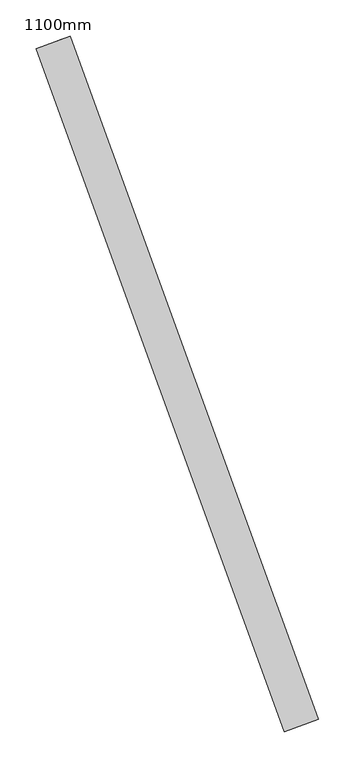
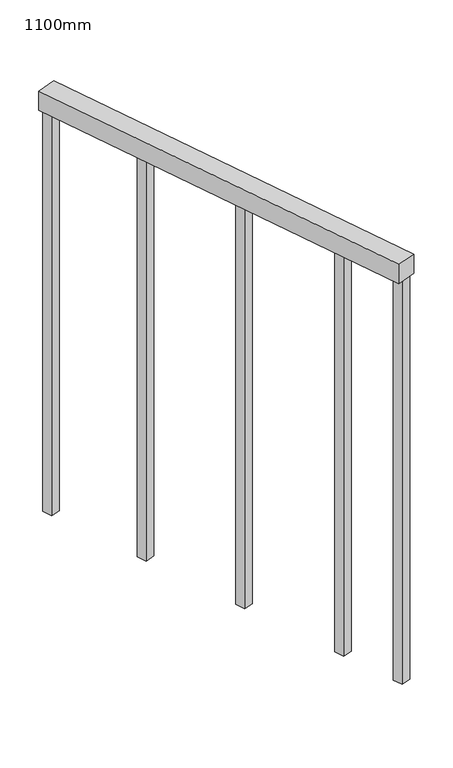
"""IFC4 building model written with IfcOpenShell, lengths in millimetres: railing geometry, 1100mm."""

import ifcopenshell
import ifcopenshell.guid

model = None  # the IFC model being written
_history = None  # IfcOwnerHistory: only IFC2X3 demands one
_inside = {}  # id of a spatial element -> (the spatial element, [elements in it])
_under = {}  # id of a project, library or spatial element -> (it, [spatial elements below it])
_declared = {}  # id of a project -> (the project, [libraries it declares])
_typed = {}  # id of a type object -> (the type object, [elements of that type])
_made_of = {}  # id of a material, layer set ... -> (it, [elements and type objects made of it])


def new_model(schema):
    """Start an empty IFC model of exactly this schema.

    Asked for "IFC4X3", IfcOpenShell would pick the latest addendum, in which some entities
    have other attributes; the version numbers below select the first issue.
    IFC2X3 requires an IfcOwnerHistory on every rooted entity: one is made here for all.
    """
    global model, _history
    if schema == "IFC4X3":
        model = ifcopenshell.file(schema_version=(4, 3, 0, 0))
    else:
        model = ifcopenshell.file(schema=schema)
    _inside.clear()
    _under.clear()
    _declared.clear()
    _typed.clear()
    _made_of.clear()
    _history = None
    if model.schema == "IFC2X3":
        org = make("IfcOrganization", Name="unknown")
        user = make(
            "IfcPersonAndOrganization",
            ThePerson=make("IfcPerson", FamilyName="unknown"),
            TheOrganization=org,
        )
        app = make(
            "IfcApplication",
            ApplicationDeveloper=org,
            Version="unknown",
            ApplicationFullName="unknown",
            ApplicationIdentifier="unknown",
        )
        _history = make(
            "IfcOwnerHistory",
            OwningUser=user,
            OwningApplication=app,
            ChangeAction="ADDED",
            CreationDate=0,
        )
    return model


def make(cls, **values):
    """One entity of the class cls with the attributes given. An attribute that is None is left unset."""
    return model.create_entity(
        cls, **{name: value for name, value in values.items() if value is not None}
    )


def rooted(cls, **values):
    """An entity with a GlobalId (a new one), such as an element, a storey or a relation."""
    return make(cls, GlobalId=ifcopenshell.guid.new(), OwnerHistory=_history, **values)


def si_unit(unit_type, name, prefix=None):
    """IfcSIUnit, for example si_unit("LENGTHUNIT", "METRE", prefix="MILLI")."""
    return make("IfcSIUnit", UnitType=unit_type, Prefix=prefix, Name=name)


def assignment(units):
    """IfcUnitAssignment: the units of a project."""
    return None if units is None else make("IfcUnitAssignment", Units=units)


def point(xyz):
    """IfcCartesianPoint."""
    return None if xyz is None else make("IfcCartesianPoint", Coordinates=xyz)


def direction(xyz):
    """IfcDirection."""
    return None if xyz is None else make("IfcDirection", DirectionRatios=xyz)


def frame(location, z_axis=None, x_axis=None):
    """IfcAxis2Placement3D, a coordinate frame: its origin and axes. An axis left out is left unset."""
    return make(
        "IfcAxis2Placement3D",
        Location=point(location),
        Axis=direction(z_axis),
        RefDirection=direction(x_axis),
    )


def origin():
    """The frame at (0, 0, 0) with its axes left unset."""
    return frame((0.0, 0.0, 0.0))


def place(relative_to, where):
    """IfcLocalPlacement: puts the frame where relative to a parent placement (None: the world)."""
    return make(
        "IfcLocalPlacement", PlacementRelTo=relative_to, RelativePlacement=where
    )


def context(
    kind, dimensions, precision=None, world=None, true_north=None, identifier=None
):
    """IfcGeometricRepresentationContext, for example the 3D "Model" context."""
    return make(
        "IfcGeometricRepresentationContext",
        ContextIdentifier=identifier,
        ContextType=kind,
        CoordinateSpaceDimension=dimensions,
        Precision=precision,
        WorldCoordinateSystem=world,
        TrueNorth=true_north,
    )


def project(units=None, contexts=None):
    """IfcProject with its units and contexts."""
    return rooted(
        "IfcProject",
        Name="project",
        RepresentationContexts=contexts,
        UnitsInContext=assignment(units),
    )


def spatial(cls, under=None, at=None, **own):
    """A site, building, storey or space (cls), placed at a placement, below another one or the project."""
    s = rooted(cls, ObjectPlacement=at, **own)
    if under is not None:
        _under.setdefault(under.id(), (under, []))[1].append(s)
    return s


def polyline(points):
    """IfcPolyline through the points."""
    return make("IfcPolyline", Points=[point(p) for p in points])


def outline(outer, holes=None, kind="AREA"):
    """IfcArbitraryClosedProfileDef: a profile drawn as a closed curve; with holes, ...WithVoids."""
    if holes is None:
        return make("IfcArbitraryClosedProfileDef", ProfileType=kind, OuterCurve=outer)
    return make(
        "IfcArbitraryProfileDefWithVoids",
        ProfileType=kind,
        OuterCurve=outer,
        InnerCurves=holes,
    )


def extrude(swept, where, along, depth):
    """IfcExtrudedAreaSolid: the profile swept, set in the frame where, extruded along a direction by depth."""
    return make(
        "IfcExtrudedAreaSolid",
        SweptArea=swept,
        Position=where,
        ExtrudedDirection=direction(along),
        Depth=depth,
    )


def shape(context_of_items, identifier, shape_type, items):
    """IfcShapeRepresentation: the items that make up one representation, for example the "Body"."""
    return make(
        "IfcShapeRepresentation",
        ContextOfItems=context_of_items,
        RepresentationIdentifier=identifier,
        RepresentationType=shape_type,
        Items=items,
    )


def source(mapping_origin, context_of_items, identifier, shape_type, items):
    """IfcRepresentationMap: a shape defined once, which mapped items show again and again."""
    return make(
        "IfcRepresentationMap",
        MappingOrigin=mapping_origin,
        MappedRepresentation=shape(context_of_items, identifier, shape_type, items),
    )


def transform(
    local_origin,
    x_axis=None,
    y_axis=None,
    z_axis=None,
    scale=None,
    scale2=None,
    scale3=None,
    uniform=True,
):
    """IfcCartesianTransformationOperator3D, or its non-uniform kind. x_axis, y_axis, z_axis: its Axis1, 2, 3."""
    if uniform:
        return make(
            "IfcCartesianTransformationOperator3D",
            Axis1=direction(x_axis),
            Axis2=direction(y_axis),
            LocalOrigin=point(local_origin),
            Scale=scale,
            Axis3=direction(z_axis),
        )
    return make(
        "IfcCartesianTransformationOperator3DnonUniform",
        Axis1=direction(x_axis),
        Axis2=direction(y_axis),
        LocalOrigin=point(local_origin),
        Scale=scale,
        Axis3=direction(z_axis),
        Scale2=scale2,
        Scale3=scale3,
    )


def mapped(mapping_source, mapping_target):
    """IfcMappedItem: shows the shape of a source again, moved by a transform."""
    return make(
        "IfcMappedItem", MappingSource=mapping_source, MappingTarget=mapping_target
    )


def made_of(thing, what):
    """Note that an element or type object is made of a material, layer set ...; save() writes the relation."""
    if what is not None:
        _made_of.setdefault(what.id(), (what, []))[1].append(thing)
    return thing


def element(
    cls,
    number,
    at=None,
    inside=None,
    cuts=None,
    type_object=None,
    material=None,
    context=None,
    identifier="Body",
    shape_type=None,
    held_by="IfcProductDefinitionShape",
    body=None,
    shapes=None,
    **own,
):
    """One element of the class cls, such as IfcWall. Its Tag is "e" and its number.

    at: its placement. inside: the storey or other place that contains it. cuts: it is an
    opening in that element (IfcRelVoidsElement). A single representation is given by context,
    identifier, shape_type and body (its items); several are given by shapes. held_by: the class
    of the entity that holds the representations. save() writes the other relations.
    """
    e = rooted(cls, Tag="e%d" % number, ObjectPlacement=at, **own)
    if body is not None:
        shapes = [shape(context, identifier, shape_type, body)]
    if shapes is not None:
        e.Representation = make(held_by, Representations=shapes)
    if inside is not None:
        _inside.setdefault(inside.id(), (inside, []))[1].append(e)
    if cuts is not None:
        rooted(
            "IfcRelVoidsElement", RelatingBuildingElement=cuts, RelatedOpeningElement=e
        )
    if type_object is not None:
        _typed.setdefault(type_object.id(), (type_object, []))[1].append(e)
    return made_of(e, material)


def aggregate(whole, parts):
    """IfcRelAggregates: a whole, such as a stair, and the parts it consists of."""
    return rooted("IfcRelAggregates", RelatingObject=whole, RelatedObjects=parts)


def save(model, path):
    """Write the relations noted so far, then the file.

    IfcRelAggregates (storeys below a building ...), IfcRelContainedInSpatialStructure (elements
    in a storey), IfcRelDefinesByType, IfcRelAssociatesMaterial and IfcRelDeclares: one each for
    every whole, place, type object, material and project.
    """
    for whole, parts in _under.values():
        aggregate(whole, parts)
    for where, things in _inside.values():
        rooted(
            "IfcRelContainedInSpatialStructure",
            RelatedElements=things,
            RelatingStructure=where,
        )
    for kind, things in _typed.values():
        rooted("IfcRelDefinesByType", RelatedObjects=things, RelatingType=kind)
    for what, things in _made_of.values():
        rooted("IfcRelAssociatesMaterial", RelatedObjects=things, RelatingMaterial=what)
    for by, libraries in _declared.values():
        rooted("IfcRelDeclares", RelatingContext=by, RelatedDefinitions=libraries)
    model.write(path)


def railing_1100mm_a6d7ff70(model_context):
    return source(origin(), model_context, "Body", "SweptSolid", [
        extrude(outline(polyline([(43223.2274388, -29036.2355312), (43270.2120699, -29019.134524), (43612.5057695, -29959.5787345), (43565.5211384, -29976.6797417), (43223.2274388, -29036.2355312)])), frame((0.0, 0.0, 7070.0), z_axis=(0.0, 0.0, 1.0), x_axis=(1.0, 0.0, 0.0)), (0.0, 0.0, 1.0), 50.0),
        extrude(outline(polyline([(43512.864963, -29795.4605338), (43536.3572786, -29786.9100302), (43544.9077821, -29810.4023457), (43521.4154666, -29818.9528493), (43512.864963, -29795.4605338)])), frame((0.0, 0.0, 6020.0), z_axis=(0.0, 0.0, 1.0), x_axis=(1.0, 0.0, 0.0)), (0.0, 0.0, 1.0), 1050.0),
        extrude(outline(polyline([(43418.8094236, -29537.0450631), (43442.3017391, -29528.4945595), (43450.8522427, -29551.986875), (43427.3599272, -29560.5373786), (43418.8094236, -29537.0450631)])), frame((0.0, 0.0, 6020.0), z_axis=(0.0, 0.0, 1.0), x_axis=(1.0, 0.0, 0.0)), (0.0, 0.0, 1.0), 1050.0),
        extrude(outline(polyline([(43324.7538842, -29278.6295923), (43348.2461997, -29270.0790888), (43356.7967033, -29293.5714043), (43333.3043878, -29302.1219079), (43324.7538842, -29278.6295923)])), frame((0.0, 0.0, 6020.0), z_axis=(0.0, 0.0, 1.0), x_axis=(1.0, 0.0, 0.0)), (0.0, 0.0, 1.0), 1050.0),
        extrude(outline(polyline([(43568.7167926, -29948.9121744), (43592.2091081, -29940.3616708), (43600.7596117, -29963.8539863), (43577.2672962, -29972.4044899), (43568.7167926, -29948.9121744)])), frame((0.0, 0.0, 6020.0), z_axis=(0.0, 0.0, 1.0), x_axis=(1.0, 0.0, 0.0)), (0.0, 0.0, 1.0), 1050.0),
        extrude(outline(polyline([(43234.9735966, -29031.9602794), (43258.4659121, -29023.4097758), (43267.0164157, -29046.9020913), (43243.5241002, -29055.4525949), (43234.9735966, -29031.9602794)])), frame((0.0, 0.0, 6020.0), z_axis=(0.0, 0.0, 1.0), x_axis=(1.0, 0.0, 0.0)), (0.0, 0.0, 1.0), 1050.0),
    ])


if __name__ == "__main__":
    model = new_model("IFC4")
    model_context = context("Model", 3, world=origin())
    ifc_project = project(units=[si_unit("LENGTHUNIT", "METRE", prefix="MILLI")], contexts=[model_context])
    site = spatial("IfcSite", under=ifc_project)
    building = spatial("IfcBuilding", under=site)
    placement = place(None, origin())
    railing_1100mm_shape = railing_1100mm_a6d7ff70(model_context)
    element("IfcRailing", 1, ObjectType="1100mm", at=placement, inside=building, context=model_context, shape_type="MappedRepresentation", body=[
        mapped(railing_1100mm_shape, transform((0.0, 0.0, 0.0), x_axis=(1.0, 0.0, 0.0), y_axis=(0.0, 1.0, 0.0), z_axis=(0.0, 0.0, 1.0))),
    ])
    save(model, "model.ifc")
